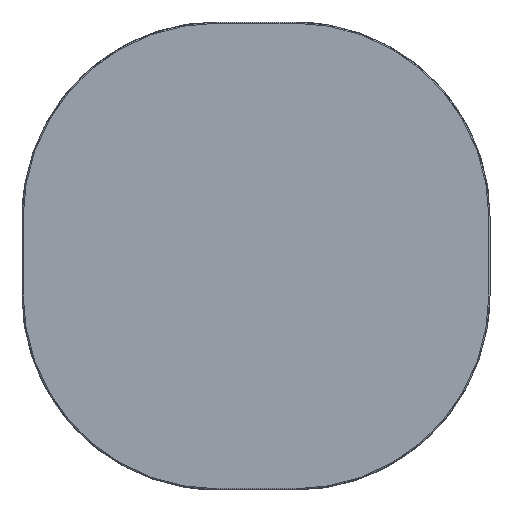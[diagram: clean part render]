
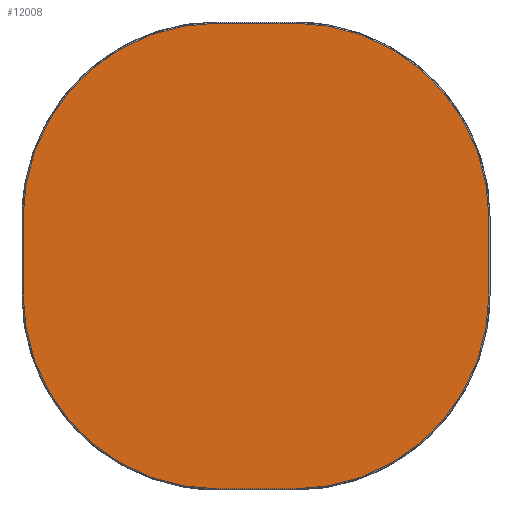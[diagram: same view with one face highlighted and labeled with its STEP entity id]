
A CAD part, top view. The second image highlights one B-rep face of the part: STEP entity #12008.
In plain terms, the highlighted planar face has unit normal (0, 0, 1).
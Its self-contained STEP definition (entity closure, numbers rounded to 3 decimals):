
#11918=CARTESIAN_POINT('',(0.,0.,20.));
#11919=DIRECTION('',(1.,0.,0.));
#11920=DIRECTION('',(0.,0.,1.));
#11921=AXIS2_PLACEMENT_3D('',#11918,#11920,#11919);
#11922=PLANE('',#11921);
#11923=CARTESIAN_POINT('',(-50.,-298.5,20.));
#11924=VERTEX_POINT('',#11923);
#11925=CARTESIAN_POINT('',(50.,-298.5,20.));
#11926=VERTEX_POINT('',#11925);
#11927=CARTESIAN_POINT('',(-50.,-298.5,20.));
#11928=DIRECTION('',(1.,0.,0.));
#11929=VECTOR('',#11928,100.);
#11930=LINE('',#11927,#11929);
#11931=EDGE_CURVE('',#11924,#11926,#11930,.T.);
#11932=ORIENTED_EDGE('E105',*,*,#11931,.T.);
#11933=CARTESIAN_POINT('',(298.5,-50.,20.));
#11934=VERTEX_POINT('',#11933);
#11935=CARTESIAN_POINT('',(50.,-50.,20.));
#11936=DIRECTION('',(0.,-1.,0.));
#11937=DIRECTION('',(0.,0.,1.));
#11938=AXIS2_PLACEMENT_3D('',#11935,#11937,#11936);
#11939=CIRCLE('',#11938,248.5);
#11940=EDGE_CURVE('',#11926,#11934,#11939,.T.);
#11941=ORIENTED_EDGE('E107',*,*,#11940,.T.);
#11942=CARTESIAN_POINT('',(298.5,50.001,20.));
#11943=VERTEX_POINT('',#11942);
#11944=CARTESIAN_POINT('',(298.5,-50.,20.));
#11945=CARTESIAN_POINT('',(298.5,-23.745,20.));
#11946=CARTESIAN_POINT('',(298.501,26.256,20.));
#11947=CARTESIAN_POINT('',(298.5,50.001,20.));
#11948=B_SPLINE_CURVE_WITH_KNOTS('',2,(#11944,#11945,#11946,#11947),.UNSPECIFIED.,.F.,.U.,(3,1,3),(0.,0.525,1.),.UNSPECIFIED.);
#11949=EDGE_CURVE('',#11934,#11943,#11948,.T.);
#11950=ORIENTED_EDGE('E109',*,*,#11949,.T.);
#11951=CARTESIAN_POINT('',(50.,298.5,20.));
#11952=VERTEX_POINT('',#11951);
#11953=CARTESIAN_POINT('',(50.,50.,20.));
#11954=DIRECTION('',(1.,0.,0.));
#11955=DIRECTION('',(0.,0.,1.));
#11956=AXIS2_PLACEMENT_3D('',#11953,#11955,#11954);
#11957=CIRCLE('',#11956,248.5);
#11958=EDGE_CURVE('',#11943,#11952,#11957,.T.);
#11959=ORIENTED_EDGE('E111',*,*,#11958,.T.);
#11960=CARTESIAN_POINT('',(-50.001,298.5,20.));
#11961=VERTEX_POINT('',#11960);
#11962=CARTESIAN_POINT('',(50.,298.5,20.));
#11963=CARTESIAN_POINT('',(44.06,298.499,20.));
#11964=CARTESIAN_POINT('',(33.903,298.5,20.));
#11965=CARTESIAN_POINT('',(23.359,298.5,20.));
#11966=CARTESIAN_POINT('',(7.191,298.5,20.));
#11967=CARTESIAN_POINT('',(-12.023,298.5,20.));
#11968=CARTESIAN_POINT('',(-27.644,298.501,20.));
#11969=CARTESIAN_POINT('',(-38.058,298.499,20.));
#11970=CARTESIAN_POINT('',(-46.112,298.498,20.));
#11971=CARTESIAN_POINT('',(-50.001,298.5,20.));
#11972=B_SPLINE_CURVE_WITH_KNOTS('',2,(#11962,#11963,#11964,#11965,#11966,#11967,#11968,#11969,#11970,#11971),.UNSPECIFIED.,.F.,.U.,(3,1,1,1,1,1,1,1,3),(0.,0.119,0.203,0.33,0.527,0.714,0.839,0.922,1.),.UNSPECIFIED.);
#11973=EDGE_CURVE('',#11952,#11961,#11972,.T.);
#11974=ORIENTED_EDGE('E113',*,*,#11973,.T.);
#11975=CARTESIAN_POINT('',(-298.5,50.,20.));
#11976=VERTEX_POINT('',#11975);
#11977=CARTESIAN_POINT('',(-50.,50.,20.));
#11978=DIRECTION('',(0.,1.,0.));
#11979=DIRECTION('',(0.,0.,1.));
#11980=AXIS2_PLACEMENT_3D('',#11977,#11979,#11978);
#11981=CIRCLE('',#11980,248.5);
#11982=EDGE_CURVE('',#11961,#11976,#11981,.T.);
#11983=ORIENTED_EDGE('E115',*,*,#11982,.T.);
#11984=CARTESIAN_POINT('',(-298.5,-50.001,20.));
#11985=VERTEX_POINT('',#11984);
#11986=CARTESIAN_POINT('',(-298.5,50.,20.));
#11987=CARTESIAN_POINT('',(-298.499,44.06,20.));
#11988=CARTESIAN_POINT('',(-298.5,33.903,20.));
#11989=CARTESIAN_POINT('',(-298.5,23.359,20.));
#11990=CARTESIAN_POINT('',(-298.5,7.191,20.));
#11991=CARTESIAN_POINT('',(-298.5,-12.023,20.));
#11992=CARTESIAN_POINT('',(-298.501,-27.644,20.));
#11993=CARTESIAN_POINT('',(-298.499,-38.058,20.));
#11994=CARTESIAN_POINT('',(-298.498,-46.112,20.));
#11995=CARTESIAN_POINT('',(-298.5,-50.001,20.));
#11996=B_SPLINE_CURVE_WITH_KNOTS('',2,(#11986,#11987,#11988,#11989,#11990,#11991,#11992,#11993,#11994,#11995),.UNSPECIFIED.,.F.,.U.,(3,1,1,1,1,1,1,1,3),(0.,0.119,0.203,0.33,0.527,0.714,0.839,0.922,1.),.UNSPECIFIED.);
#11997=EDGE_CURVE('',#11976,#11985,#11996,.T.);
#11998=ORIENTED_EDGE('E117',*,*,#11997,.T.);
#11999=CARTESIAN_POINT('',(-50.,-50.,20.));
#12000=DIRECTION('',(-1.,0.,0.));
#12001=DIRECTION('',(0.,0.,1.));
#12002=AXIS2_PLACEMENT_3D('',#11999,#12001,#12000);
#12003=CIRCLE('',#12002,248.5);
#12004=EDGE_CURVE('',#11985,#11924,#12003,.T.);
#12005=ORIENTED_EDGE('E119',*,*,#12004,.T.);
#12006=EDGE_LOOP('',(#11932,#11941,#11950,#11959,#11974,#11983,#11998,#12005));
#12007=FACE_OUTER_BOUND('',#12006,.T.);
#12008=ADVANCED_FACE('F2',(#12007),#11922,.T.);
